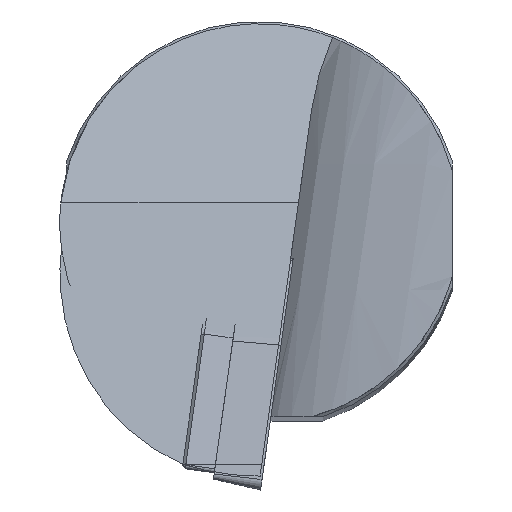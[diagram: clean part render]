
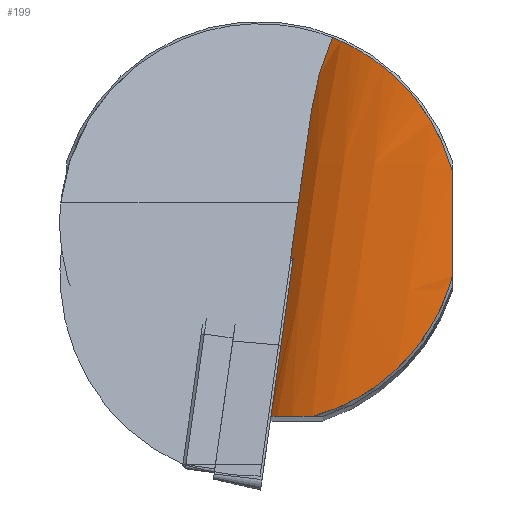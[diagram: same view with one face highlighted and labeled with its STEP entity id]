
A CAD part, top view. The second image highlights one B-rep face of the part: STEP entity #199.
In plain terms, the highlighted free-form (B-spline) face has degree [3, 3] with [4, 16] control points.
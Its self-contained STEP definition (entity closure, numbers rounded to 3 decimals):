
#101=B_SPLINE_SURFACE_WITH_KNOTS('',3,3,((#1329,#1330,#1331,#1332,#1333,
#1334,#1335,#1336,#1337,#1338,#1339,#1340,#1341,#1342,#1343,#1344),(#1345,
#1346,#1347,#1348,#1349,#1350,#1351,#1352,#1353,#1354,#1355,#1356,#1357,
#1358,#1359,#1360),(#1361,#1362,#1363,#1364,#1365,#1366,#1367,#1368,#1369,
#1370,#1371,#1372,#1373,#1374,#1375,#1376),(#1377,#1378,#1379,#1380,#1381,
#1382,#1383,#1384,#1385,#1386,#1387,#1388,#1389,#1390,#1391,#1392)),.UNSPECIFIED.,
 .F.,.F.,.F.,(4,4),(4,1,2,1,1,2,1,1,2,1,4),(0.,1.),(0.,0.14,0.25,0.28,0.42,
0.5,0.56,0.707,0.75,0.853,1.),.UNSPECIFIED.);
#105=B_SPLINE_CURVE_WITH_KNOTS('',3,(#1266,#1267,#1268,#1269,#1270,#1271,
#1272,#1273),.UNSPECIFIED.,.F.,.F.,(4,2,2,4),(0.,0.25,0.5,1.),.UNSPECIFIED.);
#108=B_SPLINE_CURVE_WITH_KNOTS('',3,(#1300,#1301,#1302,#1303,#1304,#1305,
#1306,#1307,#1308),.UNSPECIFIED.,.F.,.F.,(4,1,1,2,1,4),(0.,0.05,
0.366,0.434,0.683,1.),.UNSPECIFIED.);
#109=B_SPLINE_CURVE_WITH_KNOTS('',3,(#1309,#1310,#1311,#1312),.UNSPECIFIED.,
 .F.,.F.,(4,4),(0.,1.),.UNSPECIFIED.);
#110=B_SPLINE_CURVE_WITH_KNOTS('',3,(#1314,#1315,#1316,#1317,#1318,#1319,
#1320,#1321,#1322,#1323),.UNSPECIFIED.,.F.,.F.,(4,2,2,2,4),(0.,0.25,0.5,
0.75,1.),.UNSPECIFIED.);
#111=B_SPLINE_CURVE_WITH_KNOTS('',3,(#1325,#1326,#1327,#1328),.UNSPECIFIED.,
 .F.,.F.,(4,4),(0.,1.),.UNSPECIFIED.);
#199=ADVANCED_FACE('',(#270),#101,.T.);
#270=FACE_OUTER_BOUND('',#316,.T.);
#316=EDGE_LOOP('',(#420,#421,#422,#423,#424,#425));
#420=ORIENTED_EDGE('',*,*,#671,.T.);
#421=ORIENTED_EDGE('',*,*,#692,.F.);
#422=ORIENTED_EDGE('',*,*,#682,.T.);
#423=ORIENTED_EDGE('',*,*,#693,.F.);
#424=ORIENTED_EDGE('',*,*,#694,.T.);
#425=ORIENTED_EDGE('',*,*,#695,.F.);
#592=VERTEX_POINT('',#1236);
#593=VERTEX_POINT('',#1238);
#602=VERTEX_POINT('',#1274);
#603=VERTEX_POINT('',#1275);
#610=VERTEX_POINT('',#1313);
#611=VERTEX_POINT('',#1324);
#671=EDGE_CURVE('',#593,#592,#774,.T.);
#682=EDGE_CURVE('',#602,#603,#105,.T.);
#692=EDGE_CURVE('',#602,#592,#108,.T.);
#693=EDGE_CURVE('',#610,#603,#109,.T.);
#694=EDGE_CURVE('',#610,#611,#110,.T.);
#695=EDGE_CURVE('',#593,#611,#111,.T.);
#774=LINE('',#1237,#836);
#836=VECTOR('',#1011,1.);
#1011=DIRECTION('',(-0.139,-0.99,0.));
#1236=CARTESIAN_POINT('',(0.884,-19.,-17.568));
#1237=CARTESIAN_POINT('',(0.048,-24.95,-17.568));
#1238=CARTESIAN_POINT('',(5.117,11.114,-17.568));
#1266=CARTESIAN_POINT('',(5.205,-19.,-31.614));
#1267=CARTESIAN_POINT('',(6.305,-18.698,-33.176));
#1268=CARTESIAN_POINT('',(7.599,-18.24,-34.588));
#1269=CARTESIAN_POINT('',(10.322,-16.849,-36.963));
#1270=CARTESIAN_POINT('',(11.758,-15.907,-37.936));
#1271=CARTESIAN_POINT('',(15.758,-12.35,-40.159));
#1272=CARTESIAN_POINT('',(17.978,-8.937,-40.77));
#1273=CARTESIAN_POINT('',(19.,-5.205,-40.958));
#1274=CARTESIAN_POINT('',(5.205,-19.,-31.614));
#1275=CARTESIAN_POINT('',(19.,-5.205,-40.958));
#1300=CARTESIAN_POINT('',(5.205,-19.,-31.614));
#1301=CARTESIAN_POINT('',(5.06,-19.,-31.401));
#1302=CARTESIAN_POINT('',(4.019,-19.,-29.812));
#1303=CARTESIAN_POINT('',(3.006,-19.,-27.804));
#1304=CARTESIAN_POINT('',(2.338,-19.,-25.975));
#1305=CARTESIAN_POINT('',(1.821,-19.,-24.464));
#1306=CARTESIAN_POINT('',(1.12,-19.,-21.734));
#1307=CARTESIAN_POINT('',(0.884,-19.,-19.033));
#1308=CARTESIAN_POINT('',(0.884,-19.,-17.568));
#1309=CARTESIAN_POINT('',(19.,5.205,-40.353));
#1310=CARTESIAN_POINT('',(19.,1.736,-40.572));
#1311=CARTESIAN_POINT('',(19.,-1.734,-40.774));
#1312=CARTESIAN_POINT('',(19.,-5.205,-40.958));
#1313=CARTESIAN_POINT('',(19.,5.205,-40.353));
#1314=CARTESIAN_POINT('',(19.,5.205,-40.353));
#1315=CARTESIAN_POINT('',(18.453,7.201,-39.979));
#1316=CARTESIAN_POINT('',(17.577,9.104,-39.411));
#1317=CARTESIAN_POINT('',(15.471,12.348,-37.759));
#1318=CARTESIAN_POINT('',(14.22,13.729,-36.647));
#1319=CARTESIAN_POINT('',(11.791,15.864,-33.937));
#1320=CARTESIAN_POINT('',(10.601,16.644,-32.314));
#1321=CARTESIAN_POINT('',(8.602,17.759,-28.758));
#1322=CARTESIAN_POINT('',(7.775,18.111,-26.81));
#1323=CARTESIAN_POINT('',(7.199,18.338,-24.792));
#1324=CARTESIAN_POINT('',(7.199,18.338,-24.792));
#1325=CARTESIAN_POINT('',(5.117,11.114,-17.568));
#1326=CARTESIAN_POINT('',(5.462,13.574,-20.029));
#1327=CARTESIAN_POINT('',(6.158,15.982,-22.436));
#1328=CARTESIAN_POINT('',(7.199,18.338,-24.792));
#1329=CARTESIAN_POINT('',(6.923,23.97,-17.568));
#1330=CARTESIAN_POINT('',(6.923,23.97,-19.033));
#1331=CARTESIAN_POINT('',(7.159,23.97,-21.734));
#1332=CARTESIAN_POINT('',(7.86,23.97,-24.464));
#1333=CARTESIAN_POINT('',(8.377,23.97,-25.975));
#1334=CARTESIAN_POINT('',(9.045,23.97,-27.804));
#1335=CARTESIAN_POINT('',(10.364,23.97,-30.42));
#1336=CARTESIAN_POINT('',(11.871,23.97,-32.528));
#1337=CARTESIAN_POINT('',(12.905,23.97,-33.81));
#1338=CARTESIAN_POINT('',(14.513,23.97,-35.636));
#1339=CARTESIAN_POINT('',(16.753,23.97,-37.536));
#1340=CARTESIAN_POINT('',(18.585,23.97,-38.719));
#1341=CARTESIAN_POINT('',(20.018,23.97,-39.583));
#1342=CARTESIAN_POINT('',(22.532,23.97,-40.86));
#1343=CARTESIAN_POINT('',(25.124,23.97,-41.675));
#1344=CARTESIAN_POINT('',(26.623,23.97,-42.));
#1345=CARTESIAN_POINT('',(4.632,7.663,-17.568));
#1346=CARTESIAN_POINT('',(4.632,7.663,-19.033));
#1347=CARTESIAN_POINT('',(4.867,7.663,-21.734));
#1348=CARTESIAN_POINT('',(5.569,7.663,-24.464));
#1349=CARTESIAN_POINT('',(6.085,7.663,-25.975));
#1350=CARTESIAN_POINT('',(6.753,7.663,-27.804));
#1351=CARTESIAN_POINT('',(8.073,7.663,-30.42));
#1352=CARTESIAN_POINT('',(9.579,7.663,-32.528));
#1353=CARTESIAN_POINT('',(10.613,7.663,-33.81));
#1354=CARTESIAN_POINT('',(12.221,7.663,-35.636));
#1355=CARTESIAN_POINT('',(14.462,7.663,-37.536));
#1356=CARTESIAN_POINT('',(16.294,7.663,-38.719));
#1357=CARTESIAN_POINT('',(17.726,7.663,-39.583));
#1358=CARTESIAN_POINT('',(20.241,7.663,-40.86));
#1359=CARTESIAN_POINT('',(22.832,7.663,-41.675));
#1360=CARTESIAN_POINT('',(24.332,7.663,-42.));
#1361=CARTESIAN_POINT('',(2.34,-8.643,-17.568));
#1362=CARTESIAN_POINT('',(2.34,-8.643,-19.033));
#1363=CARTESIAN_POINT('',(2.575,-8.643,-21.734));
#1364=CARTESIAN_POINT('',(3.277,-8.643,-24.464));
#1365=CARTESIAN_POINT('',(3.793,-8.643,-25.975));
#1366=CARTESIAN_POINT('',(4.462,-8.643,-27.804));
#1367=CARTESIAN_POINT('',(5.781,-8.643,-30.42));
#1368=CARTESIAN_POINT('',(7.288,-8.643,-32.528));
#1369=CARTESIAN_POINT('',(8.321,-8.643,-33.81));
#1370=CARTESIAN_POINT('',(9.929,-8.643,-35.636));
#1371=CARTESIAN_POINT('',(12.17,-8.643,-37.536));
#1372=CARTESIAN_POINT('',(14.002,-8.643,-38.719));
#1373=CARTESIAN_POINT('',(15.435,-8.643,-39.583));
#1374=CARTESIAN_POINT('',(17.949,-8.643,-40.86));
#1375=CARTESIAN_POINT('',(20.54,-8.643,-41.675));
#1376=CARTESIAN_POINT('',(22.04,-8.643,-42.));
#1377=CARTESIAN_POINT('',(0.048,-24.95,-17.568));
#1378=CARTESIAN_POINT('',(0.048,-24.95,-19.033));
#1379=CARTESIAN_POINT('',(0.284,-24.95,-21.734));
#1380=CARTESIAN_POINT('',(0.985,-24.95,-24.464));
#1381=CARTESIAN_POINT('',(1.502,-24.95,-25.975));
#1382=CARTESIAN_POINT('',(2.17,-24.95,-27.804));
#1383=CARTESIAN_POINT('',(3.489,-24.95,-30.42));
#1384=CARTESIAN_POINT('',(4.996,-24.95,-32.528));
#1385=CARTESIAN_POINT('',(6.03,-24.95,-33.81));
#1386=CARTESIAN_POINT('',(7.638,-24.95,-35.636));
#1387=CARTESIAN_POINT('',(9.878,-24.95,-37.536));
#1388=CARTESIAN_POINT('',(11.71,-24.95,-38.719));
#1389=CARTESIAN_POINT('',(13.143,-24.95,-39.583));
#1390=CARTESIAN_POINT('',(15.657,-24.95,-40.86));
#1391=CARTESIAN_POINT('',(18.249,-24.95,-41.675));
#1392=CARTESIAN_POINT('',(19.748,-24.95,-42.));
